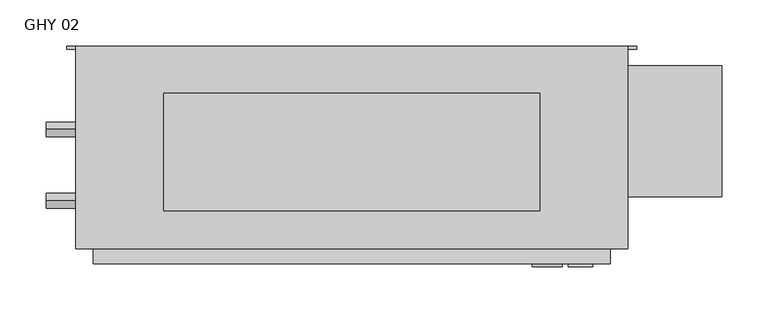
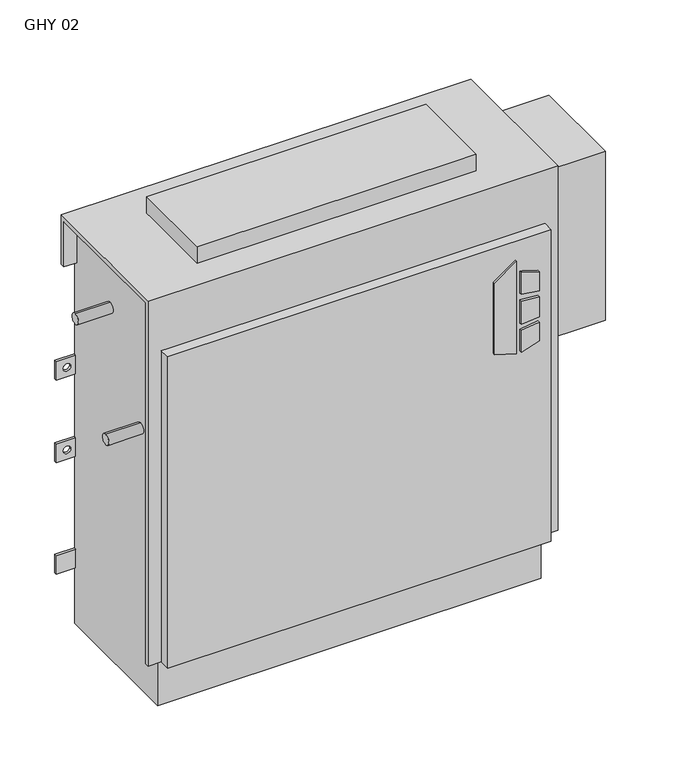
"""IFC4 building model written with IfcOpenShell, lengths in millimetres: proxy geometry, Vertical_Fan_Coil_Unit_-_GHY_-_IEC_-_2-Pipe_TS-FR_LH_2022 : GHY 02."""

from ifc_helpers import new_model, si_unit, point, frame, frame_2d, origin, place, context, project, spatial, polyline, circle_curve, trimmed, segment, composite_curve, outline, extrude, source, transform, mapped, element, save
from ifc_brep_helpers import plane_surface, revolved_surface, advanced_brep


def ghy_02_1b58b239(model_context):
    return source(origin(), model_context, "Body", "SolidModel", [
        extrude(outline(polyline([(391.6086829, 347.7368862), (381.6606126, 379.9102728), (523.831537, 379.9102728), (500.8095309, 347.7368862), (391.6086829, 347.7368862)])), frame((0.0, 6.35, 0.0), z_axis=(0.0, 1.0, 0.0), x_axis=(0.0, 0.0, 1.0)), (0.0, 0.0, 1.0), 3.175),
        extrude(outline(polyline([(470.6079683, 386.6686058), (467.4055757, 412.75), (496.6344168, 412.75), (504.6988318, 386.6686058), (470.6079683, 386.6686058)])), frame((0.0, 6.35, 0.0), z_axis=(0.0, 1.0, 0.0), x_axis=(0.0, 0.0, 1.0)), (0.0, 0.0, 1.0), 3.175),
        extrude(outline(polyline([(418.7444414, 412.75), (415.0789404, 386.6686058), (381.6606126, 386.6686058), (390.2948498, 412.75), (418.7444414, 412.75)])), frame((0.0, 6.35, 0.0), z_axis=(0.0, 1.0, 0.0), x_axis=(0.0, 0.0, 1.0)), (0.0, 0.0, 1.0), 3.175),
        extrude(outline(polyline([(458.0596028, 412.75), (460.3414292, 386.6686058), (424.4038806, 386.6686058), (427.1451456, 412.75), (458.0596028, 412.75)])), frame((0.0, 6.35, 0.0), z_axis=(0.0, 1.0, 0.0), x_axis=(0.0, 0.0, 1.0)), (0.0, 0.0, 1.0), 3.175),
        extrude(outline(polyline([(355.6, 193.675), (355.6, 66.675), (-50.8, 66.675), (-50.8, 193.675), (355.6, 193.675)])), frame((0.0, 0.0, 635.0), z_axis=(0.0, 0.0, 1.0), x_axis=(1.0, 0.0, 0.0)), (0.0, 0.0, 1.0), 25.4),
        extrude(outline(composite_curve([segment(trimmed(circle_curve(frame_2d((77.597, 401.574)), 7.9375), [point((77.597, 409.5115))], [point((77.597, 393.6365))], False, "CARTESIAN"), True, "CONTINUOUS"), segment(trimmed(circle_curve(frame_2d((77.597, 401.574)), 7.9375), [point((77.597, 393.6365))], [point((77.597, 409.5115))], False, "CARTESIAN"), True, "CONTINUOUS")], self_intersect=False)), frame((-177.8, 0.0, 0.0), z_axis=(1.0, 0.0, 0.0), x_axis=(0.0, 1.0, 0.0)), (0.0, 0.0, 1.0), 50.8),
        extrude(outline(composite_curve([segment(trimmed(circle_curve(frame_2d((154.559, 540.512)), 7.9375), [point((154.559, 548.4495))], [point((154.559, 532.5745))], False, "CARTESIAN"), True, "CONTINUOUS"), segment(trimmed(circle_curve(frame_2d((154.559, 540.512)), 7.9375), [point((154.559, 532.5745))], [point((154.559, 548.4495))], False, "CARTESIAN"), True, "CONTINUOUS")], self_intersect=False)), frame((-177.8, 0.0, 0.0), z_axis=(1.0, 0.0, 0.0), x_axis=(0.0, 1.0, 0.0)), (0.0, 0.0, 1.0), 50.8),
        extrude(outline(polyline([(552.45, 223.266), (552.45, 81.534), (431.8, 81.534), (431.8, 223.266), (552.45, 223.266)])), frame((0.0, 0.0, 327.025), z_axis=(0.0, 0.0, 1.0), x_axis=(1.0, 0.0, 0.0)), (0.0, 0.0, 1.0), 260.35),
        advanced_brep(
        [(450.85, 244.475, 635.0), (-146.05, 244.475, 635.0), (-146.05, 25.4, 635.0), (450.85, 25.4, 635.0), (-127.0, 244.475, 0.0), (431.8, 244.475, 0.0), (431.8, 34.925, 0.0), (-127.0, 34.925, 0.0), (450.85, 244.475, 558.8), (431.8, 244.475, 558.8), (431.8, 244.475, 414.3375), (460.375, 244.475, 414.3375), (460.375, 244.475, 385.7625), (431.8, 244.475, 385.7625), (431.8, 244.475, 287.3375), (460.375, 244.475, 287.3375), (460.375, 244.475, 258.7625), (431.8, 244.475, 258.7625), (431.8, 244.475, 141.2875), (460.375, 244.475, 141.2875), (460.375, 244.475, 112.7125), (431.8, 244.475, 112.7125), (-127.0, 244.475, 87.3125), (-155.575, 244.475, 87.3125), (-155.575, 244.475, 115.8875), (-127.0, 244.475, 115.8875), (-127.0, 244.475, 258.7625), (-155.575, 244.475, 258.7625), (-155.575, 244.475, 287.3375), (-127.0, 244.475, 287.3375), (-127.0, 244.475, 385.7625), (-155.575, 244.475, 385.7625), (-155.575, 244.475, 414.3375), (-127.0, 244.475, 414.3375), (-127.0, 244.475, 558.8), (-146.05, 244.475, 558.8), (450.0626, 244.475, 127.0), (438.9374, 244.475, 127.0), (450.0626, 244.475, 273.05), (438.9374, 244.475, 273.05), (-134.1374, 244.475, 273.05), (-145.2626, 244.475, 273.05), (450.0626, 244.475, 400.05), (438.9374, 244.475, 400.05), (-134.1374, 244.475, 400.05), (-145.2626, 244.475, 400.05), (-146.05, 238.125, 558.8), (-146.05, 238.125, 628.65), (-146.05, 31.75, 628.65), (-146.05, 31.75, 73.025), (-146.05, 25.4, 73.025), (431.8, 9.525, 552.45), (-127.0, 9.525, 552.45), (-127.0, 9.525, 73.025), (431.8, 9.525, 73.025), (450.85, 25.4, 73.025), (450.85, 31.75, 73.025), (450.85, 31.75, 628.65), (450.85, 238.125, 628.65), (450.85, 238.125, 558.8), (-127.0, 25.4, 73.025), (-127.0, 25.4, 552.45), (431.8, 25.4, 552.45), (431.8, 25.4, 73.025), (-127.0, 31.75, 73.025), (-127.0, 34.925, 73.025), (431.8, 34.925, 73.025), (431.8, 31.75, 73.025), (431.8, 241.3, 112.7125), (431.8, 241.3, 141.2875), (431.8, 241.3, 258.7625), (431.8, 241.3, 287.3375), (431.8, 241.3, 385.7625), (431.8, 241.3, 414.3375), (431.8, 238.125, 558.8), (431.8, 238.125, 628.65), (431.8, 31.75, 628.65), (-127.0, 31.75, 628.65), (-127.0, 238.125, 628.65), (-127.0, 238.125, 558.8), (-127.0, 241.3, 414.3375), (-127.0, 241.3, 385.7625), (-127.0, 241.3, 287.3375), (-127.0, 241.3, 258.7625), (-127.0, 241.3, 115.8875), (-127.0, 241.3, 87.3125), (460.375, 241.3, 112.7125), (460.375, 241.3, 141.2875), (438.9374, 241.3, 127.0), (450.0626, 241.3, 127.0), (460.375, 241.3, 258.7625), (460.375, 241.3, 287.3375), (438.9374, 241.3, 273.05), (450.0626, 241.3, 273.05), (460.375, 241.3, 385.7625), (460.375, 241.3, 414.3375), (438.9374, 241.3, 400.05), (450.0626, 241.3, 400.05), (-155.575, 241.3, 115.8875), (-155.575, 241.3, 87.3125), (-155.575, 241.3, 287.3375), (-155.575, 241.3, 258.7625), (-145.2626, 241.3, 273.05), (-134.1374, 241.3, 273.05), (-155.575, 241.3, 414.3375), (-155.575, 241.3, 385.7625), (-145.2626, 241.3, 400.05), (-134.1374, 241.3, 400.05)],
        [
            (0, 1),
            (1, 2),
            (2, 3),
            (3, 0),
            (4, 5),
            (5, 6),
            (6, 7),
            (7, 4),
            (0, 8),
            (8, 9),
            (9, 10),
            (10, 11),
            (11, 12),
            (12, 13),
            (13, 14),
            (14, 15),
            (15, 16),
            (16, 17),
            (17, 18),
            (18, 19),
            (19, 20),
            (20, 21),
            (21, 5),
            (4, 22),
            (22, 23),
            (23, 24),
            (24, 25),
            (25, 26),
            (26, 27),
            (27, 28),
            (28, 29),
            (29, 30),
            (30, 31),
            (31, 32),
            (32, 33),
            (33, 34),
            (34, 35),
            (35, 1),
            (36, 37, circle_curve(frame((444.5, 244.475, 127.0), z_axis=(0.0, -1.0, 0.0), x_axis=(-1.0, 0.0, 0.0)), 5.5626)),
            (37, 36, circle_curve(frame((444.5, 244.475, 127.0), z_axis=(0.0, -1.0, 0.0), x_axis=(-1.0, 0.0, 0.0)), 5.5626)),
            (38, 39, circle_curve(frame((444.5, 244.475, 273.05), z_axis=(0.0, -1.0, 0.0), x_axis=(-1.0, 0.0, 0.0)), 5.5626)),
            (39, 38, circle_curve(frame((444.5, 244.475, 273.05), z_axis=(0.0, -1.0, 0.0), x_axis=(-1.0, 0.0, 0.0)), 5.5626)),
            (40, 41, circle_curve(frame((-139.7, 244.475, 273.05), z_axis=(0.0, -1.0, 0.0), x_axis=(-1.0, 0.0, 0.0)), 5.5626)),
            (41, 40, circle_curve(frame((-139.7, 244.475, 273.05), z_axis=(0.0, -1.0, 0.0), x_axis=(-1.0, 0.0, 0.0)), 5.5626)),
            (42, 43, circle_curve(frame((444.5, 244.475, 400.05), z_axis=(0.0, -1.0, 0.0), x_axis=(-1.0, 0.0, 0.0)), 5.5626)),
            (43, 42, circle_curve(frame((444.5, 244.475, 400.05), z_axis=(0.0, -1.0, 0.0), x_axis=(-1.0, 0.0, 0.0)), 5.5626)),
            (44, 45, circle_curve(frame((-139.7, 244.475, 400.05), z_axis=(0.0, -1.0, 0.0), x_axis=(-1.0, 0.0, 0.0)), 5.5626)),
            (45, 44, circle_curve(frame((-139.7, 244.475, 400.05), z_axis=(0.0, -1.0, 0.0), x_axis=(-1.0, 0.0, 0.0)), 5.5626)),
            (35, 46),
            (46, 47),
            (47, 48),
            (48, 49),
            (49, 50),
            (50, 2),
            (51, 52),
            (52, 53),
            (53, 54),
            (54, 51),
            (3, 55),
            (55, 56),
            (56, 57),
            (57, 58),
            (58, 59),
            (59, 8),
            (50, 60),
            (60, 61),
            (61, 62),
            (62, 63),
            (63, 55),
            (51, 62),
            (61, 52),
            (53, 60),
            (49, 64),
            (64, 65),
            (65, 66),
            (66, 67),
            (67, 56),
            (63, 54),
            (6, 66),
            (65, 7),
            (21, 68),
            (68, 69),
            (69, 18),
            (17, 70),
            (70, 71),
            (71, 14),
            (13, 72),
            (72, 73),
            (73, 10),
            (9, 74),
            (74, 75),
            (75, 76),
            (76, 67),
            (64, 77),
            (77, 78),
            (78, 79),
            (79, 34),
            (33, 80),
            (80, 81),
            (81, 30),
            (29, 82),
            (82, 83),
            (83, 26),
            (25, 84),
            (84, 85),
            (85, 22),
            (74, 59),
            (58, 75),
            (76, 57),
            (48, 77),
            (79, 46),
            (78, 47),
            (68, 86),
            (86, 87),
            (87, 69),
            (88, 89, circle_curve(frame((444.5, 241.3, 127.0), z_axis=(0.0, 1.0, 0.0), x_axis=(-1.0, 0.0, 0.0)), 5.5626)),
            (89, 88, circle_curve(frame((444.5, 241.3, 127.0), z_axis=(0.0, 1.0, 0.0), x_axis=(-1.0, 0.0, 0.0)), 5.5626)),
            (90, 91),
            (91, 71),
            (70, 90),
            (92, 93, circle_curve(frame((444.5, 241.3, 273.05), z_axis=(0.0, 1.0, 0.0), x_axis=(-1.0, 0.0, 0.0)), 5.5626)),
            (93, 92, circle_curve(frame((444.5, 241.3, 273.05), z_axis=(0.0, 1.0, 0.0), x_axis=(-1.0, 0.0, 0.0)), 5.5626)),
            (94, 95),
            (95, 73),
            (72, 94),
            (96, 97, circle_curve(frame((444.5, 241.3, 400.05), z_axis=(0.0, 1.0, 0.0), x_axis=(-1.0, 0.0, 0.0)), 5.5626)),
            (97, 96, circle_curve(frame((444.5, 241.3, 400.05), z_axis=(0.0, 1.0, 0.0), x_axis=(-1.0, 0.0, 0.0)), 5.5626)),
            (98, 99),
            (99, 85),
            (84, 98),
            (82, 100),
            (100, 101),
            (101, 83),
            (102, 103, circle_curve(frame((-139.7, 241.3, 273.05), z_axis=(0.0, 1.0, 0.0), x_axis=(-1.0, 0.0, 0.0)), 5.5626)),
            (103, 102, circle_curve(frame((-139.7, 241.3, 273.05), z_axis=(0.0, 1.0, 0.0), x_axis=(-1.0, 0.0, 0.0)), 5.5626)),
            (104, 105),
            (105, 81),
            (80, 104),
            (106, 107, circle_curve(frame((-139.7, 241.3, 400.05), z_axis=(0.0, 1.0, 0.0), x_axis=(-1.0, 0.0, 0.0)), 5.5626)),
            (107, 106, circle_curve(frame((-139.7, 241.3, 400.05), z_axis=(0.0, 1.0, 0.0), x_axis=(-1.0, 0.0, 0.0)), 5.5626)),
            (87, 19),
            (86, 20),
            (16, 90),
            (91, 15),
            (12, 94),
            (95, 11),
            (24, 98),
            (99, 23),
            (101, 27),
            (100, 28),
            (32, 104),
            (105, 31),
            (88, 37),
            (36, 89),
            (92, 39),
            (38, 93),
            (102, 41),
            (40, 103),
            (96, 43),
            (42, 97),
            (106, 45),
            (44, 107),
        ],
        [
            plane_surface(frame((-146.05, 244.475, 635.0), z_axis=(0.0, 0.0, 1.0), x_axis=(-1.0, 0.0, 0.0))),
            plane_surface(frame((-146.05, 244.475, 0.0), z_axis=(0.0, 0.0, -1.0), x_axis=(1.0, 0.0, 0.0))),
            plane_surface(frame((450.85, 244.475, 635.0), z_axis=(0.0, 1.0, 0.0), x_axis=(0.0, 0.0, -1.0))),
            plane_surface(frame((-146.05, 244.475, 635.0), z_axis=(-1.0, 0.0, 0.0), x_axis=(0.0, 0.0, -1.0))),
            plane_surface(frame((-146.05, 9.525, 635.0), z_axis=(0.0, -1.0, 0.0), x_axis=(0.0, 0.0, -1.0))),
            plane_surface(frame((450.85, 9.525, 635.0), z_axis=(1.0, 0.0, 0.0), x_axis=(0.0, 0.0, -1.0))),
            plane_surface(frame((-146.05, 25.4, 635.0), z_axis=(0.0, -1.0, 0.0), x_axis=(1.0, 0.0, 0.0))),
            plane_surface(frame((-146.05, 25.4, 552.45), z_axis=(0.0, 0.0, 1.0), x_axis=(1.0, 0.0, 0.0))),
            plane_surface(frame((-146.05, 9.525, 73.025), z_axis=(0.0, 0.0, -1.0), x_axis=(1.0, 0.0, 0.0))),
            plane_surface(frame((-146.05, 34.925, 73.025), z_axis=(0.0, -1.0, 0.0), x_axis=(1.0, 0.0, 0.0))),
            plane_surface(frame((431.8, 25.4, 73.025), z_axis=(1.0, 0.0, 0.0), x_axis=(0.0, -1.0, 0.0))),
            plane_surface(frame((-127.0, 25.4, 552.45), z_axis=(-1.0, 0.0, 0.0), x_axis=(0.0, -1.0, 0.0))),
            plane_surface(frame((431.8, 244.475, 0.0), z_axis=(1.0, 0.0, 0.0), x_axis=(0.0, -1.0, 0.0))),
            plane_surface(frame((-127.0, 244.475, 73.025), z_axis=(-1.0, 0.0, 0.0), x_axis=(0.0, -1.0, 0.0))),
            plane_surface(frame((431.8, 238.125, 628.65), z_axis=(0.0, -1.0, 0.0), x_axis=(1.0, 0.0, 0.0))),
            plane_surface(frame((431.8, 238.125, 558.8), z_axis=(0.0, 0.0, -1.0), x_axis=(1.0, 0.0, 0.0))),
            plane_surface(frame((431.8, 31.75, 73.025), z_axis=(0.0, 1.0, 0.0), x_axis=(1.0, 0.0, 0.0))),
            plane_surface(frame((431.8, 31.75, 628.65), z_axis=(0.0, 0.0, -1.0), x_axis=(1.0, 0.0, 0.0))),
            plane_surface(frame((-127.0, 31.75, 628.65), z_axis=(0.0, 1.0, 0.0), x_axis=(-1.0, 0.0, 0.0))),
            plane_surface(frame((-127.0, 244.475, 558.8), z_axis=(0.0, 0.0, -1.0), x_axis=(-1.0, 0.0, 0.0))),
            plane_surface(frame((-127.0, 238.125, 558.8), z_axis=(0.0, -1.0, 0.0), x_axis=(-1.0, 0.0, 0.0))),
            plane_surface(frame((-127.0, 238.125, 628.65), z_axis=(0.0, 0.0, -1.0), x_axis=(-1.0, 0.0, 0.0))),
            plane_surface(frame((460.375, 241.3, 141.2875), z_axis=(0.0, -1.0, 0.0), x_axis=(-1.0, 0.0, 0.0))),
            plane_surface(frame((431.8, 244.475, 141.2875), z_axis=(0.0, 0.0, 1.0), x_axis=(0.0, -1.0, 0.0))),
            plane_surface(frame((460.375, 244.475, 141.2875), z_axis=(1.0, 0.0, 0.0), x_axis=(0.0, -1.0, 0.0))),
            plane_surface(frame((460.375, 244.475, 112.7125), z_axis=(0.0, 0.0, -1.0), x_axis=(0.0, -1.0, 0.0))),
            plane_surface(frame((460.375, 244.475, 258.7625), z_axis=(0.0, 0.0, -1.0), x_axis=(0.0, -1.0, 0.0))),
            plane_surface(frame((431.8, 244.475, 287.3375), z_axis=(0.0, 0.0, 1.0), x_axis=(0.0, -1.0, 0.0))),
            plane_surface(frame((460.375, 244.475, 287.3375), z_axis=(1.0, 0.0, 0.0), x_axis=(0.0, -1.0, 0.0))),
            plane_surface(frame((460.375, 244.475, 385.7625), z_axis=(0.0, 0.0, -1.0), x_axis=(0.0, -1.0, 0.0))),
            plane_surface(frame((431.8, 244.475, 414.3375), z_axis=(0.0, 0.0, 1.0), x_axis=(0.0, -1.0, 0.0))),
            plane_surface(frame((460.375, 244.475, 414.3375), z_axis=(1.0, 0.0, 0.0), x_axis=(0.0, -1.0, 0.0))),
            plane_surface(frame((-155.575, 244.475, 115.8875), z_axis=(0.0, 0.0, 1.0), x_axis=(0.0, -1.0, 0.0))),
            plane_surface(frame((-127.0, 244.475, 87.3125), z_axis=(0.0, 0.0, -1.0), x_axis=(0.0, -1.0, 0.0))),
            plane_surface(frame((-155.575, 244.475, 87.3125), z_axis=(-1.0, 0.0, 0.0), x_axis=(0.0, -1.0, 0.0))),
            plane_surface(frame((-127.0, 244.475, 258.7625), z_axis=(0.0, 0.0, -1.0), x_axis=(0.0, -1.0, 0.0))),
            plane_surface(frame((-155.575, 244.475, 258.7625), z_axis=(-1.0, 0.0, 0.0), x_axis=(0.0, -1.0, 0.0))),
            plane_surface(frame((-155.575, 244.475, 287.3375), z_axis=(0.0, 0.0, 1.0), x_axis=(0.0, -1.0, 0.0))),
            plane_surface(frame((-155.575, 244.475, 414.3375), z_axis=(0.0, 0.0, 1.0), x_axis=(0.0, -1.0, 0.0))),
            plane_surface(frame((-127.0, 244.475, 385.7625), z_axis=(0.0, 0.0, -1.0), x_axis=(0.0, -1.0, 0.0))),
            plane_surface(frame((-155.575, 244.475, 385.7625), z_axis=(-1.0, 0.0, 0.0), x_axis=(0.0, -1.0, 0.0))),
            revolved_surface(polyline([(438.9374, 241.3, 127.0), (438.9374, 244.475, 127.0)]), (444.5, 244.475, 127.0), (0.0, -1.0, 0.0)),
            revolved_surface(polyline([(438.9374, 241.3, 273.05), (438.9374, 244.475, 273.05)]), (444.5, 244.475, 273.05), (0.0, -1.0, 0.0)),
            revolved_surface(polyline([(-145.2626, 241.3, 273.05), (-145.2626, 244.475, 273.05)]), (-139.7, 244.475, 273.05), (0.0, -1.0, 0.0)),
            revolved_surface(polyline([(438.9374, 241.3, 400.05), (438.9374, 244.475, 400.05)]), (444.5, 244.475, 400.05), (0.0, -1.0, 0.0)),
            revolved_surface(polyline([(-145.2626, 241.3, 400.05), (-145.2626, 244.475, 400.05)]), (-139.7, 244.475, 400.05), (0.0, -1.0, 0.0)),
        ],
        [
            (0, [[1, 2, 3, 4]]),
            (1, [[5, 6, 7, 8]]),
            (2, [[-1, 9, 10, 11, 12, 13, 14, 15, 16, 17, 18, 19, 20, 21, 22, 23, -5, 24, 25, 26, 27, 28, 29, 30, 31, 32, 33, 34, 35, 36, 37, 38], [39, 40], [41, 42], [43, 44], [45, 46], [47, 48]]),
            (3, [[-2, -38, 49, 50, 51, 52, 53, 54]]),
            (4, [[55, 56, 57, 58]]),
            (5, [[-4, 59, 60, 61, 62, 63, 64, -9]]),
            (6, [[-3, -54, 65, 66, 67, 68, 69, -59]]),
            (7, [[-55, 70, -67, 71]]),
            (8, [[-57, 72, -65, -53, 73, 74, 75, 76, 77, -60, -69, 78]]),
            (9, [[-7, 79, -75, 80]]),
            (10, [[-68, -70, -58, -78]]),
            (11, [[-66, -72, -56, -71]]),
            (12, [[-6, -23, 81, 82, 83, -19, 84, 85, 86, -15, 87, 88, 89, -11, 90, 91, 92, 93, -76, -79]]),
            (13, [[-8, -80, -74, 94, 95, 96, 97, -36, 98, 99, 100, -32, 101, 102, 103, -28, 104, 105, 106, -24]]),
            (14, [[-91, 107, -63, 108]]),
            (15, [[-90, -10, -64, -107]]),
            (16, [[-93, 109, -61, -77]]),
            (17, [[-92, -108, -62, -109]]),
            (18, [[-94, -73, -52, 110]]),
            (19, [[-97, 111, -49, -37]]),
            (20, [[-96, 112, -50, -111]]),
            (21, [[-95, -110, -51, -112]]),
            (22, [[113, 114, 115, -82], [116, 117]]),
            (22, [[118, 119, -85, 120], [121, 122]]),
            (22, [[123, 124, -88, 125], [126, 127]]),
            (22, [[128, 129, -105, 130]]),
            (22, [[131, 132, 133, -102], [134, 135]]),
            (22, [[136, 137, -99, 138], [139, 140]]),
            (23, [[-115, 141, -20, -83]]),
            (24, [[-114, 142, -21, -141]]),
            (25, [[-113, -81, -22, -142]]),
            (26, [[-120, -84, -18, 143]]),
            (27, [[-119, 144, -16, -86]]),
            (28, [[-118, -143, -17, -144]]),
            (29, [[-125, -87, -14, 145]]),
            (30, [[-124, 146, -12, -89]]),
            (31, [[-123, -145, -13, -146]]),
            (32, [[-130, -104, -27, 147]]),
            (33, [[-129, 148, -25, -106]]),
            (34, [[-128, -147, -26, -148]]),
            (35, [[-133, 149, -29, -103]]),
            (36, [[-132, 150, -30, -149]]),
            (37, [[-131, -101, -31, -150]]),
            (38, [[-138, -98, -35, 151]]),
            (39, [[-137, 152, -33, -100]]),
            (40, [[-136, -151, -34, -152]]),
            (41, [[153, -39, 154, -116]]),
            (41, [[-153, -117, -154, -40]]),
            (42, [[155, -41, 156, -121]]),
            (42, [[-155, -122, -156, -42]]),
            (43, [[157, -43, 158, -134]]),
            (43, [[-157, -135, -158, -44]]),
            (44, [[159, -45, 160, -126]]),
            (44, [[-159, -127, -160, -46]]),
            (45, [[161, -47, 162, -139]]),
            (45, [[-161, -140, -162, -48]]),
        ],
    ),
    ])


if __name__ == "__main__":
    model = new_model("IFC4")
    model_context = context("Model", 3, world=origin())
    ifc_project = project(units=[si_unit("LENGTHUNIT", "METRE", prefix="MILLI")], contexts=[model_context])
    site = spatial("IfcSite", under=ifc_project)
    building = spatial("IfcBuilding", under=site)
    placement = place(None, origin())
    ghy_02_shape = ghy_02_1b58b239(model_context)
    element("IfcBuildingElementProxy", 1, Name="Vertical_Fan_Coil_Unit_-_GHY_-_IEC_-_2-Pipe_TS-FR_LH_2022 : GHY 02", ObjectType="Vertical_Fan_Coil_Unit_-_GHY_-_IEC_-_2-Pipe_TS-FR_LH_2022 : GHY 02", at=placement, inside=building, context=model_context, shape_type="MappedRepresentation", body=[
        mapped(ghy_02_shape, transform((0.0, 0.0, 0.0), x_axis=(1.0, 0.0, 0.0), y_axis=(0.0, 1.0, 0.0), z_axis=(0.0, 0.0, 1.0))),
    ])
    save(model, "model.ifc")
